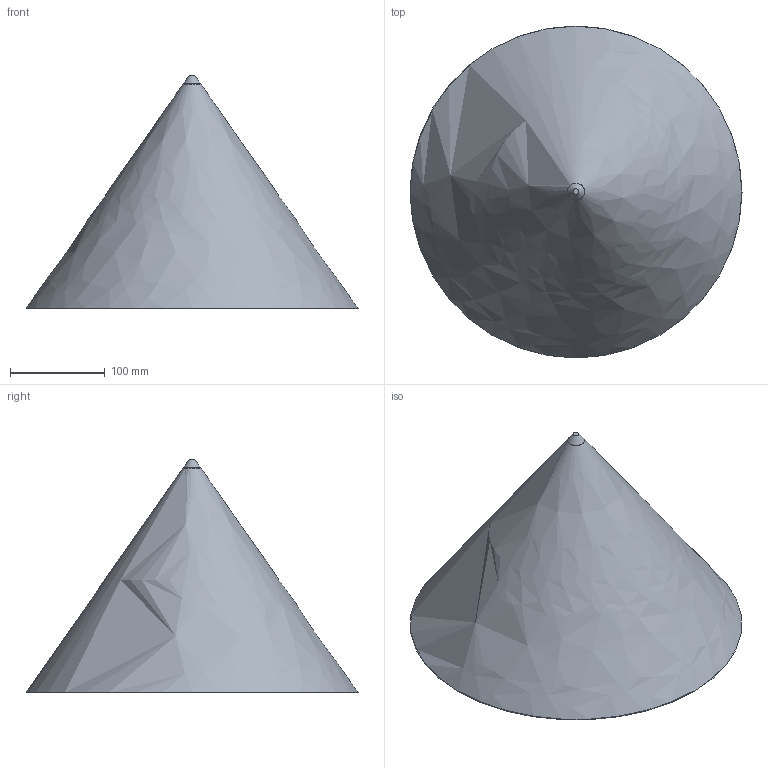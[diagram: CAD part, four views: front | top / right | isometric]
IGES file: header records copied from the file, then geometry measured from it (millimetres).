
Start section: SolidWorks IGES file using analytic representation for surfaces
Global section: file name: X:\PRODUKT\Modele 3D_WWW\_CAMELEON\KLOSZE I OPRAWY WWW\CAMELEON-ZENITH\CAMELEON-ZENITH-M-8066-8070-10196\CAMELEON-ZENITH-M-8066-8070-10196.IGS; native system: SolidWorks 2021; preprocessor: SolidWorks 2021; author: gabriela.tworek; date: 220819.120052; units: millimetre
Bounding box: 350 x 350 x 245.42 mm (x, y, z)
Surface area: 335026.1 mm2 (no closed solid volume)
Topology: 0 solids, 0 shells, 11 faces, 26 edges, 21 vertices
Faces by surface type: bspline 6, revolution 5
